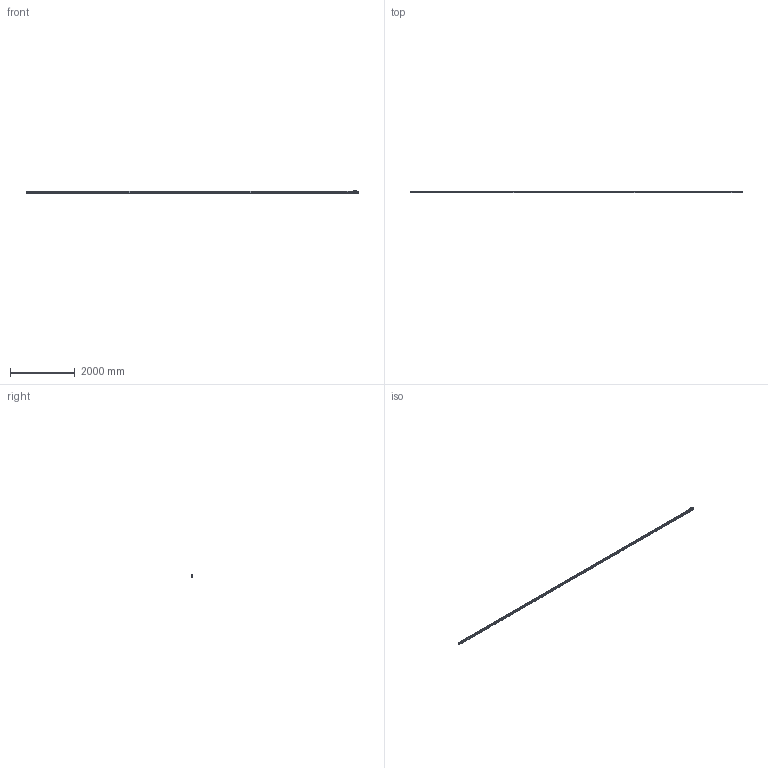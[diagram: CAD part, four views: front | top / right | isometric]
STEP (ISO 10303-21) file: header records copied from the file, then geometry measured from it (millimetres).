
FILE_DESCRIPTION(('Creo Elements/Direct Modeling STEP Export'),'2;1');
FILE_NAME('REGLA_L3_10040.stp','2025-03-28T16:13:36',(''),(''),'Creo Elements/Direct Modeling STEP processor for AP214 (Solid Model)','Creo Elements/Direct Modeling 20.4A 18-Oct-2021 (C) Parametric Technology GmbH','');
FILE_SCHEMA(('AUTOMOTIVE_DESIGN { 1 0 10303 214 1 1 1 1 }'));
Length unit declared in the file: millimetre
Products named in the file (4): CABEZA_L3_M8; PERFIL_L3_10040; REGLA_L3_10040; REGLA_L3_10040.stp
Assembly tree (3 placements, depth 3):
  REGLA_L3_10040.stp
    REGLA_L3_10040
      PERFIL_L3_10040
      CABEZA_L3_M8
Bounding box: 10290 x 50 x 85 mm (x, y, z)
Volume: 26641013.6 mm3; surface area: 2987749.5 mm2
Topology: 2 solids, 2 shells, 2732 faces, 7828 edges, 5197 vertices
Faces by surface type: plane 1375, cylinder 963, cone 279, bspline 59, torus 50, extrusion 6
Entity records: 105349 total; most frequent: CARTESIAN_POINT 28215, ORIENTED_EDGE 15640, DIRECTION 14068, EDGE_CURVE 7820, VERTEX_POINT 5197, VECTOR 4962, LINE 4956, AXIS2_PLACEMENT_3D 4553
